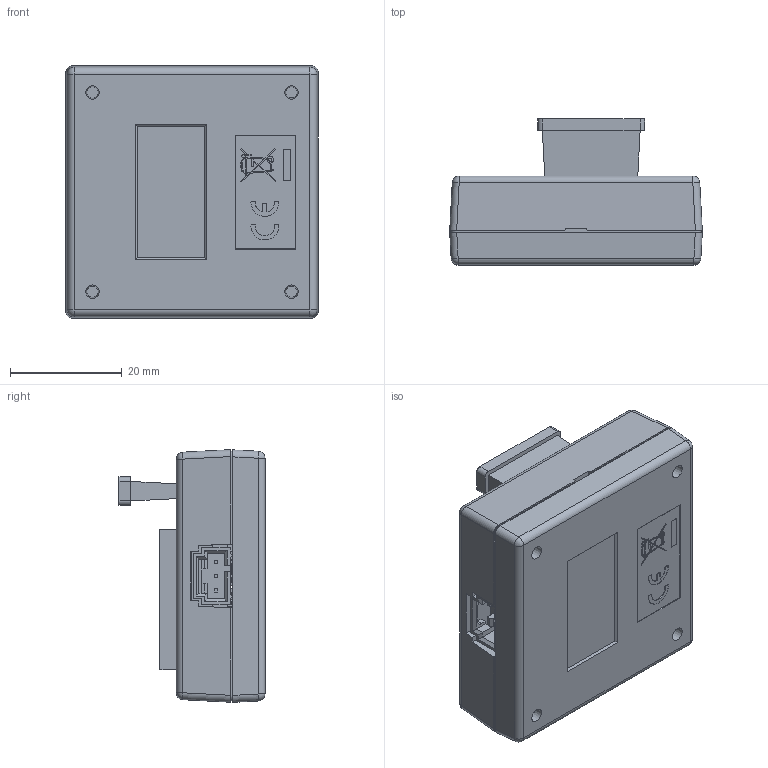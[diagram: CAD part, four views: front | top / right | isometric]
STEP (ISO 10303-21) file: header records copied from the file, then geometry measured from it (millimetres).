
FILE_DESCRIPTION(/* description */ ('Alibre Inc.'),/* implementation_level */ '2;1');
FILE_NAME(/* name */ 'export0',/* time_stamp */ '2018-02-15T11:38:18-07:00',/* author */ (''),/* organization */ (''),/* preprocessor_version */ 'ST-DEVELOPER v14',/* originating_system */ 'Alibre',/* authorisation */ '');
FILE_SCHEMA (('CONFIG_CONTROL_DESIGN'));
Length unit declared in the file: centimetre
Products named in the file (153): ID_1; ID_2; ID_3; ID_4; ID_5; ID_6; ID_7; ID_8; ID_9; ID_10; ID_11; ID_12; ID_13; ID_14; ID_15; ID_16; ID_17; ID_18; ID_19; ID_20; ID_21; ID_22; ID_23; ID_24; ID_25; ID_26; ID_27; ID_28; ID_29; ID_30; ID_31; ID_32; ID_33; ID_34; ID_35; ID_36; ID_37; ID_38; ID_39; ID_40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
Bounding box: 45.11 x 26.09 x 45.12 mm (x, y, z)
Volume: 17775.9 mm3; surface area: 26196.1 mm2
Topology: 187 solids, 187 shells, 3862 faces, 10001 edges, 6578 vertices
Faces by surface type: plane 3079, cylinder 396, bspline 324, cone 20, torus 19, revolution 16, sphere 8
Full cylindrical faces by diameter (mm): 0.6 x3, 0.965 x8, 1 x2, 1.067 x2, 1.321 x4, 1.575 x4, 1.778 x4, 3 x4, 3.099 x4, 3.175 x4, 8 x1
Entity records: 80109 total; most frequent: CARTESIAN_POINT 16585, ORIENTED_EDGE 9992, DIRECTION 8050, EDGE_CURVE 4996, VECTOR 3887, LINE 3887, VERTEX_POINT 3287, AXIS2_PLACEMENT_3D 2754
